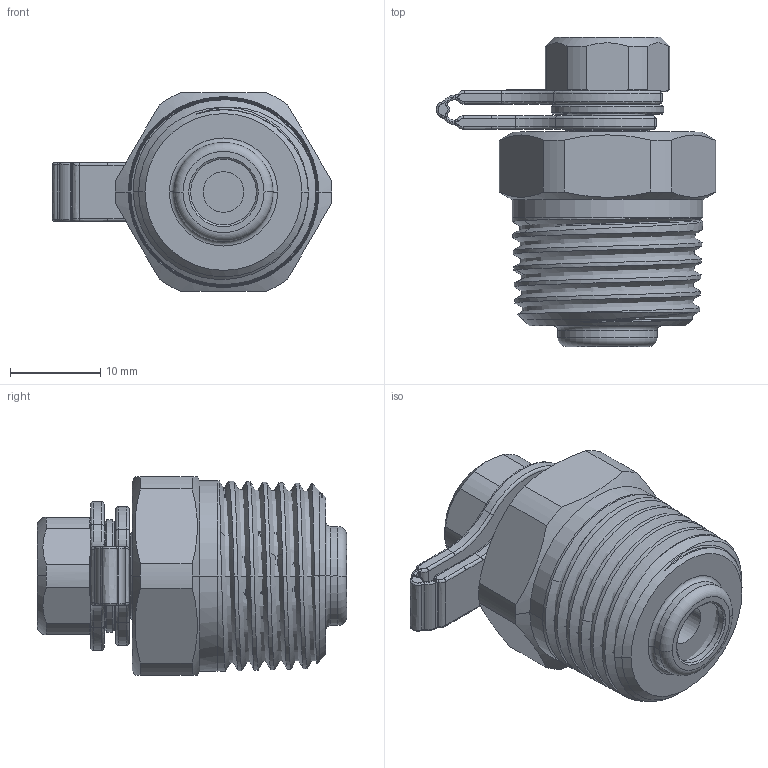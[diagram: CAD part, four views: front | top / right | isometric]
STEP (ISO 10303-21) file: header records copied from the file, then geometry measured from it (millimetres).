
FILE_DESCRIPTION((''),'2;1');
FILE_NAME('T90SS_1-2NPT_ASM','2026-05-07T14:38:43',('alessio.piazza'),(''),'CREO PARAMETRIC BY PTC INC, 2025183','CREO PARAMETRIC BY PTC INC, 2025183','');
FILE_SCHEMA(('CONFIG_CONTROL_DESIGN'));
Length unit declared in the file: millimetre
Products named in the file (6): 26022_RIBATTUTO; 25232; 26024; 23179; 13054; T90SS_1-2NPT_ASM
Assembly tree (6 placements, depth 2):
  T90SS_1-2NPT_ASM
    26022_RIBATTUTO
    25232  x2
    26024
    23179
    13054
Bounding box: 30.99 x 34.3 x 22 mm (x, y, z)
Volume: 8985.8 mm3; surface area: 7545 mm2
Topology: 6 solids, 9 shells, 337 faces, 802 edges, 491 vertices
Faces by surface type: bspline 142, cylinder 74, cone 49, plane 48, torus 24
Entity records: 18470 total; most frequent: CARTESIAN_POINT 11712, ORIENTED_EDGE 1552, DIRECTION 1061, EDGE_CURVE 782, VERTEX_POINT 479, AXIS2_PLACEMENT_3D 433, B_SPLINE_CURVE_WITH_KNOTS 355, EDGE_LOOP 343
